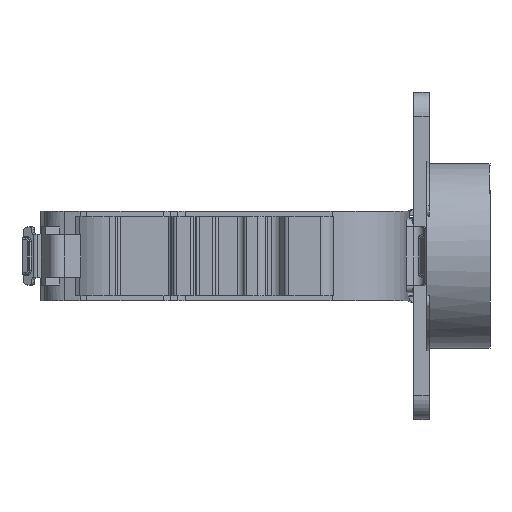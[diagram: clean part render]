
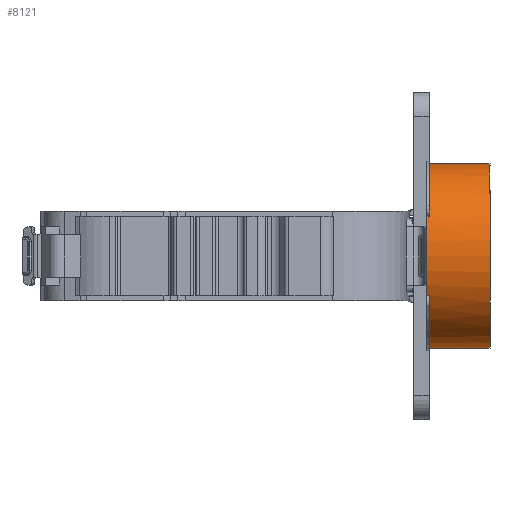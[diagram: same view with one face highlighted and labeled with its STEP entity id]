
A CAD part, front view. The second image highlights one B-rep face of the part: STEP entity #8121.
In plain terms, the highlighted cylindrical face has radius 17.45 mm (diameter 34.9 mm), a partial arc.
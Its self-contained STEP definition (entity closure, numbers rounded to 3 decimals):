
#288 = CIRCLE ( 'NONE', #12290, 17.45 ) ;
#344 = CARTESIAN_POINT ( 'NONE',  ( 37.536, 7.757, -7.528 ) ) ;
#364 = VERTEX_POINT ( 'NONE', #5285 ) ;
#572 = CARTESIAN_POINT ( 'NONE',  ( 49.497, 23.5, 0. ) ) ;
#699 = ORIENTED_EDGE ( 'NONE', *, *, #10287, .T. ) ;
#1057 = CARTESIAN_POINT ( 'NONE',  ( 37.997, 7.757, 7.528 ) ) ;
#1174 = VECTOR ( 'NONE', #4495, 1000. ) ;
#1487 = VERTEX_POINT ( 'NONE', #13609 ) ;
#1502 = ORIENTED_EDGE ( 'NONE', *, *, #2502, .T. ) ;
#1629 = EDGE_CURVE ( 'NONE', #7956, #8978, #9726, .T. ) ;
#1909 = LINE ( 'NONE', #6612, #6652 ) ;
#1996 = CARTESIAN_POINT ( 'NONE',  ( 37.536, 7.757, -7.528 ) ) ;
#2022 = DIRECTION ( 'NONE',  ( 1., 0., 0. ) ) ;
#2063 = DIRECTION ( 'NONE',  ( 1., 0., 0. ) ) ;
#2072 = EDGE_CURVE ( 'NONE', #364, #1487, #9671, .T. ) ;
#2089 = ORIENTED_EDGE ( 'NONE', *, *, #4674, .T. ) ;
#2364 = CARTESIAN_POINT ( 'NONE',  ( 37.497, 23.5, 0. ) ) ;
#2368 = VERTEX_POINT ( 'NONE', #14921 ) ;
#2372 = VERTEX_POINT ( 'NONE', #1996 ) ;
#2502 = EDGE_CURVE ( 'NONE', #2372, #4819, #8099, .T. ) ;
#2683 = ORIENTED_EDGE ( 'NONE', *, *, #3874, .T. ) ;
#2797 = EDGE_LOOP ( 'NONE', ( #5672, #2683, #699, #14855, #3900, #8988, #1502, #6642, #2089, #4283 ) ) ;
#2851 = EDGE_CURVE ( 'NONE', #7956, #4851, #9186, .T. ) ;
#3092 = VECTOR ( 'NONE', #15186, 1000. ) ;
#3685 = DIRECTION ( 'NONE',  ( 1., 0., 0. ) ) ;
#3732 = CARTESIAN_POINT ( 'NONE',  ( 37.517, 7.843, 7.707 ) ) ;
#3874 = EDGE_CURVE ( 'NONE', #2368, #13210, #288, .T. ) ;
#3900 = ORIENTED_EDGE ( 'NONE', *, *, #2851, .T. ) ;
#3957 = CARTESIAN_POINT ( 'NONE',  ( 37.536, 7.757, 7.528 ) ) ;
#4015 = CARTESIAN_POINT ( 'NONE',  ( 37.497, 8.034, -8.081 ) ) ;
#4243 = DIRECTION ( 'NONE',  ( 1., 0., 0. ) ) ;
#4283 = ORIENTED_EDGE ( 'NONE', *, *, #2072, .F. ) ;
#4307 = AXIS2_PLACEMENT_3D ( 'NONE', #6167, #4673, #9614 ) ;
#4406 = EDGE_CURVE ( 'NONE', #4819, #13012, #9410, .T. ) ;
#4495 = DIRECTION ( 'NONE',  ( 1., 0., 0. ) ) ;
#4523 = EDGE_CURVE ( 'NONE', #2372, #4851, #13263, .T. ) ;
#4673 = DIRECTION ( 'NONE',  ( 1., 0., 0. ) ) ;
#4674 = EDGE_CURVE ( 'NONE', #13012, #1487, #1909, .T. ) ;
#4754 = CARTESIAN_POINT ( 'NONE',  ( 37.517, 7.843, -7.707 ) ) ;
#4819 = VERTEX_POINT ( 'NONE', #5733 ) ;
#4851 = VERTEX_POINT ( 'NONE', #9430 ) ;
#5285 = CARTESIAN_POINT ( 'NONE',  ( 49.497, 23.5, 17.45 ) ) ;
#5672 = ORIENTED_EDGE ( 'NONE', *, *, #6960, .F. ) ;
#5733 = CARTESIAN_POINT ( 'NONE',  ( 37.997, 7.757, -7.528 ) ) ;
#6167 = CARTESIAN_POINT ( 'NONE',  ( -11.859, 23.5, 0. ) ) ;
#6171 = CARTESIAN_POINT ( 'NONE',  ( 37.497, 8.034, 8.081 ) ) ;
#6612 = CARTESIAN_POINT ( 'NONE',  ( -11.859, 23.5, -17.45 ) ) ;
#6642 = ORIENTED_EDGE ( 'NONE', *, *, #4406, .T. ) ;
#6652 = VECTOR ( 'NONE', #2063, 1000. ) ;
#6923 = AXIS2_PLACEMENT_3D ( 'NONE', #2364, #3685, #10829 ) ;
#6933 = CARTESIAN_POINT ( 'NONE',  ( 37.747, 7.757, -7.528 ) ) ;
#6960 = EDGE_CURVE ( 'NONE', #2368, #364, #12507, .T. ) ;
#7047 = CARTESIAN_POINT ( 'NONE',  ( 37.997, 23.5, -17.45 ) ) ;
#7745 = LINE ( 'NONE', #10100, #3092 ) ;
#7956 = VERTEX_POINT ( 'NONE', #10480 ) ;
#8099 = LINE ( 'NONE', #6933, #1174 ) ;
#8121 = ADVANCED_FACE ( 'NONE', ( #11884 ), #12979, .T. ) ;
#8242 = CARTESIAN_POINT ( 'NONE',  ( 37.997, 23.5, 0. ) ) ;
#8399 = AXIS2_PLACEMENT_3D ( 'NONE', #11652, #2022, #9315 ) ;
#8978 = VERTEX_POINT ( 'NONE', #14410 ) ;
#8988 = ORIENTED_EDGE ( 'NONE', *, *, #4523, .F. ) ;
#9031 = DIRECTION ( 'NONE',  ( 0., 0., -1. ) ) ;
#9186 = CIRCLE ( 'NONE', #6923, 17.45 ) ;
#9315 = DIRECTION ( 'NONE',  ( 0., 0., -1. ) ) ;
#9410 = CIRCLE ( 'NONE', #8399, 17.45 ) ;
#9430 = CARTESIAN_POINT ( 'NONE',  ( 37.497, 8.034, -8.081 ) ) ;
#9614 = DIRECTION ( 'NONE',  ( 0., 0., -1. ) ) ;
#9671 = CIRCLE ( 'NONE', #12405, 17.45 ) ;
#9726 = B_SPLINE_CURVE_WITH_KNOTS ( 'NONE', 3,
 ( #6171, #14695, #3732, #3957 ),
 .UNSPECIFIED., .F., .F.,
 ( 4, 4 ),
 ( 0., 1. ),
 .UNSPECIFIED. ) ;
#9981 = CARTESIAN_POINT ( 'NONE',  ( 37.497, 7.934, -7.889 ) ) ;
#10100 = CARTESIAN_POINT ( 'NONE',  ( 37.747, 7.757, 7.528 ) ) ;
#10287 = EDGE_CURVE ( 'NONE', #13210, #8978, #7745, .T. ) ;
#10448 = DIRECTION ( 'NONE',  ( 0., 0., -1. ) ) ;
#10480 = CARTESIAN_POINT ( 'NONE',  ( 37.497, 8.034, 8.081 ) ) ;
#10518 = DIRECTION ( 'NONE',  ( 1., 0., 0. ) ) ;
#10829 = DIRECTION ( 'NONE',  ( 0., 0., 1. ) ) ;
#11187 = DIRECTION ( 'NONE',  ( 1., 0., 0. ) ) ;
#11652 = CARTESIAN_POINT ( 'NONE',  ( 37.997, 23.5, 0. ) ) ;
#11695 = VECTOR ( 'NONE', #11187, 1000. ) ;
#11884 = FACE_OUTER_BOUND ( 'NONE', #2797, .T. ) ;
#12290 = AXIS2_PLACEMENT_3D ( 'NONE', #8242, #10518, #10448 ) ;
#12405 = AXIS2_PLACEMENT_3D ( 'NONE', #572, #4243, #9031 ) ;
#12507 = LINE ( 'NONE', #14551, #11695 ) ;
#12979 = CYLINDRICAL_SURFACE ( 'NONE', #4307, 17.45 ) ;
#13012 = VERTEX_POINT ( 'NONE', #7047 ) ;
#13210 = VERTEX_POINT ( 'NONE', #1057 ) ;
#13263 = B_SPLINE_CURVE_WITH_KNOTS ( 'NONE', 3,
 ( #344, #4754, #9981, #4015 ),
 .UNSPECIFIED., .F., .F.,
 ( 4, 4 ),
 ( 0., 1. ),
 .UNSPECIFIED. ) ;
#13609 = CARTESIAN_POINT ( 'NONE',  ( 49.497, 23.5, -17.45 ) ) ;
#14410 = CARTESIAN_POINT ( 'NONE',  ( 37.536, 7.757, 7.528 ) ) ;
#14551 = CARTESIAN_POINT ( 'NONE',  ( -11.859, 23.5, 17.45 ) ) ;
#14695 = CARTESIAN_POINT ( 'NONE',  ( 37.497, 7.934, 7.889 ) ) ;
#14855 = ORIENTED_EDGE ( 'NONE', *, *, #1629, .F. ) ;
#14921 = CARTESIAN_POINT ( 'NONE',  ( 37.997, 23.5, 17.45 ) ) ;
#15186 = DIRECTION ( 'NONE',  ( -1., 0., 0. ) ) ;
